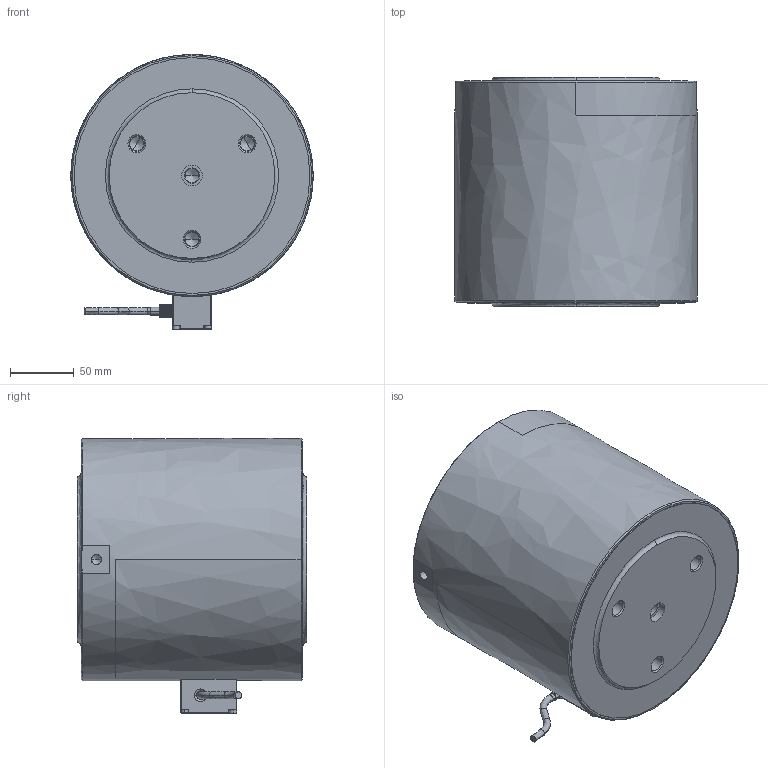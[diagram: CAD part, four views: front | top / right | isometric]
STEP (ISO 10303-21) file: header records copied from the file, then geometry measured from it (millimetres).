
FILE_DESCRIPTION((''),'2;1');
FILE_NAME('C6B_5MN','2018-06-11T',('esche'),(''),'CREO PARAMETRIC BY PTC INC, 2017170','CREO PARAMETRIC BY PTC INC, 2017170','');
FILE_SCHEMA(('CONFIG_CONTROL_DESIGN'));
Length unit declared in the file: millimetre
Products named in the file (1): C6B_5MN
Bounding box: 190 x 180 x 215.8 mm (x, y, z)
Volume: 5020940.9 mm3; surface area: 176910.7 mm2
Topology: 1 solids, 1 shells, 275 faces, 632 edges, 374 vertices
Faces by surface type: bspline 275
Entity records: 11995 total; most frequent: CARTESIAN_POINT 6112, ORIENTED_EDGE 1224, DIRECTION 854, EDGE_CURVE 612, VERTEX_POINT 374, VECTOR 322, LINE 322, EDGE_LOOP 310
